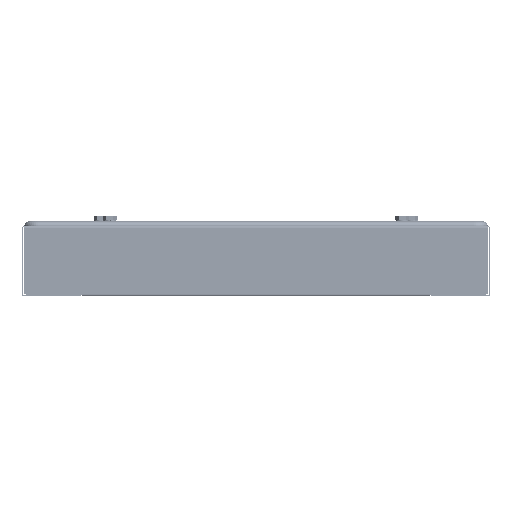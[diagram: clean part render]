
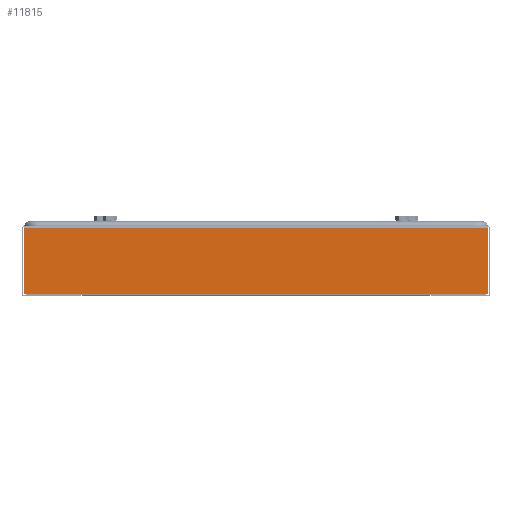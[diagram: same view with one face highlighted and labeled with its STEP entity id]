
A CAD part, front view. The second image highlights one B-rep face of the part: STEP entity #11815.
In plain terms, the highlighted planar face has unit normal (0, -1, 0).
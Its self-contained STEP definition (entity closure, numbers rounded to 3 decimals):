
#28 = DIRECTION ( 'NONE',  ( 1., 0., 0. ) ) ;
#219 = CARTESIAN_POINT ( 'NONE',  ( 0., -475., -58.4 ) ) ;
#420 = CARTESIAN_POINT ( 'NONE',  ( 198.293, -475., -1. ) ) ;
#470 = EDGE_CURVE ( 'NONE', #15900, #15722, #8676, .T. ) ;
#717 = EDGE_LOOP ( 'NONE', ( #11850, #1880, #10400, #21323, #18249, #10235 ) ) ;
#937 = CARTESIAN_POINT ( 'NONE',  ( -198.293, -475., -1.6 ) ) ;
#1880 = ORIENTED_EDGE ( 'NONE', *, *, #14953, .F. ) ;
#4053 = LINE ( 'NONE', #16842, #22348 ) ;
#4340 = CARTESIAN_POINT ( 'NONE',  ( -149., -475., -58.4 ) ) ;
#5426 = VECTOR ( 'NONE', #16818, 1000. ) ;
#5764 = CARTESIAN_POINT ( 'NONE',  ( -149., -475., -58.4 ) ) ;
#7510 = VECTOR ( 'NONE', #28, 1000. ) ;
#8075 = FACE_OUTER_BOUND ( 'NONE', #717, .T. ) ;
#8416 = LINE ( 'NONE', #420, #5426 ) ;
#8542 = CARTESIAN_POINT ( 'NONE',  ( -198.293, -475., 0. ) ) ;
#8676 = LINE ( 'NONE', #19287, #7510 ) ;
#8814 = DIRECTION ( 'NONE',  ( 0., 0., -1. ) ) ;
#10078 = EDGE_CURVE ( 'NONE', #26468, #25369, #14943, .T. ) ;
#10222 = CARTESIAN_POINT ( 'NONE',  ( 149., -475., -58.4 ) ) ;
#10235 = ORIENTED_EDGE ( 'NONE', *, *, #10078, .T. ) ;
#10400 = ORIENTED_EDGE ( 'NONE', *, *, #21139, .T. ) ;
#11815 = ADVANCED_FACE ( 'NONE', ( #8075 ), #20070, .F. ) ;
#11850 = ORIENTED_EDGE ( 'NONE', *, *, #25003, .F. ) ;
#12749 = DIRECTION ( 'NONE',  ( 1., 0., 0. ) ) ;
#12807 = VERTEX_POINT ( 'NONE', #16280 ) ;
#14090 = VECTOR ( 'NONE', #12749, 1000. ) ;
#14313 = CARTESIAN_POINT ( 'NONE',  ( -198.293, -475., -58.4 ) ) ;
#14806 = LINE ( 'NONE', #4340, #14090 ) ;
#14847 = CARTESIAN_POINT ( 'NONE',  ( 198.293, -475., -58.4 ) ) ;
#14943 = LINE ( 'NONE', #219, #24061 ) ;
#14953 = EDGE_CURVE ( 'NONE', #17201, #12807, #4053, .T. ) ;
#15415 = LINE ( 'NONE', #8542, #23342 ) ;
#15722 = VERTEX_POINT ( 'NONE', #5764 ) ;
#15900 = VERTEX_POINT ( 'NONE', #14313 ) ;
#16124 = AXIS2_PLACEMENT_3D ( 'NONE', #20206, #26926, #18145 ) ;
#16280 = CARTESIAN_POINT ( 'NONE',  ( 198.293, -475., -1.6 ) ) ;
#16818 = DIRECTION ( 'NONE',  ( 0., 0., -1. ) ) ;
#16842 = CARTESIAN_POINT ( 'NONE',  ( 200., -475., -1.6 ) ) ;
#17201 = VERTEX_POINT ( 'NONE', #937 ) ;
#18145 = DIRECTION ( 'NONE',  ( 0., 0., 1. ) ) ;
#18249 = ORIENTED_EDGE ( 'NONE', *, *, #18505, .T. ) ;
#18505 = EDGE_CURVE ( 'NONE', #15722, #26468, #14806, .T. ) ;
#19287 = CARTESIAN_POINT ( 'NONE',  ( 0., -475., -58.4 ) ) ;
#20070 = PLANE ( 'NONE',  #16124 ) ;
#20206 = CARTESIAN_POINT ( 'NONE',  ( 0., -475., 0. ) ) ;
#21139 = EDGE_CURVE ( 'NONE', #17201, #15900, #15415, .T. ) ;
#21323 = ORIENTED_EDGE ( 'NONE', *, *, #470, .T. ) ;
#22348 = VECTOR ( 'NONE', #23168, 1000. ) ;
#23168 = DIRECTION ( 'NONE',  ( 1., 0., 0. ) ) ;
#23342 = VECTOR ( 'NONE', #8814, 1000. ) ;
#23750 = DIRECTION ( 'NONE',  ( 1., 0., 0. ) ) ;
#24061 = VECTOR ( 'NONE', #23750, 1000. ) ;
#25003 = EDGE_CURVE ( 'NONE', #12807, #25369, #8416, .T. ) ;
#25369 = VERTEX_POINT ( 'NONE', #14847 ) ;
#26468 = VERTEX_POINT ( 'NONE', #10222 ) ;
#26926 = DIRECTION ( 'NONE',  ( 0., 1., 0. ) ) ;
